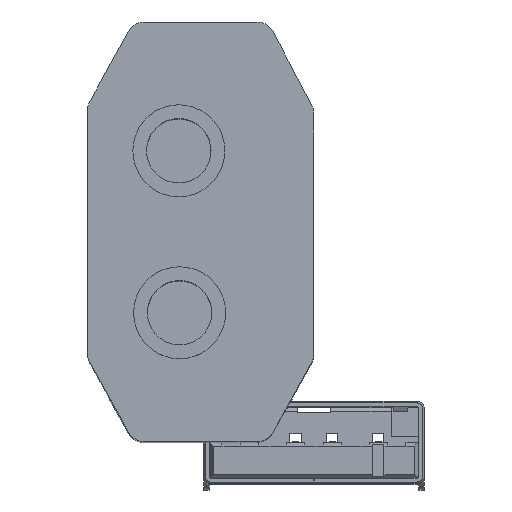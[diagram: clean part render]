
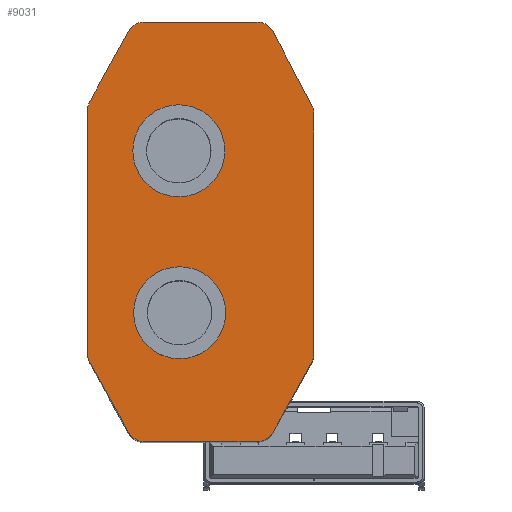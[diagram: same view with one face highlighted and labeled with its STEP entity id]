
A CAD part, top view. The second image highlights one B-rep face of the part: STEP entity #9031.
In plain terms, the highlighted planar face has unit normal (0, 0, 1).
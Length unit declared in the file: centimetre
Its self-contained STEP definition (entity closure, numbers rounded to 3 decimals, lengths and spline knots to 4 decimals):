
#1017=VERTEX_POINT('',#18897);
#1021=VERTEX_POINT('',#18908);
#1032=VERTEX_POINT('',#18943);
#1033=VERTEX_POINT('',#18944);
#1034=VERTEX_POINT('',#18946);
#1035=VERTEX_POINT('',#18948);
#1036=VERTEX_POINT('',#18950);
#1037=VERTEX_POINT('',#18952);
#1038=VERTEX_POINT('',#18954);
#1039=VERTEX_POINT('',#18956);
#1040=VERTEX_POINT('',#18958);
#1041=VERTEX_POINT('',#18960);
#1042=VERTEX_POINT('',#18962);
#1043=VERTEX_POINT('',#18964);
#1044=VERTEX_POINT('',#18966);
#1045=VERTEX_POINT('',#18968);
#1046=VERTEX_POINT('',#18970);
#1047=VERTEX_POINT('',#18972);
#2189=EDGE_CURVE('',#1017,#1017,#9902,.T.);
#2193=EDGE_CURVE('',#1021,#1021,#9906,.T.);
#2208=EDGE_CURVE('',#1032,#1033,#9909,.T.);
#2209=EDGE_CURVE('',#1034,#1032,#10640,.T.);
#2210=EDGE_CURVE('',#1035,#1034,#9910,.T.);
#2211=EDGE_CURVE('',#1036,#1035,#10641,.T.);
#2212=EDGE_CURVE('',#1037,#1036,#9911,.T.);
#2213=EDGE_CURVE('',#1038,#1037,#10642,.T.);
#2214=EDGE_CURVE('',#1039,#1038,#9912,.T.);
#2215=EDGE_CURVE('',#1040,#1039,#10643,.T.);
#2216=EDGE_CURVE('',#1041,#1040,#9913,.T.);
#2217=EDGE_CURVE('',#1042,#1041,#10644,.T.);
#2218=EDGE_CURVE('',#1043,#1042,#9914,.T.);
#2219=EDGE_CURVE('',#1044,#1043,#10645,.T.);
#2220=EDGE_CURVE('',#1045,#1044,#9915,.T.);
#2221=EDGE_CURVE('',#1046,#1045,#10646,.T.);
#2222=EDGE_CURVE('',#1047,#1046,#9916,.T.);
#2223=EDGE_CURVE('',#1033,#1047,#10647,.T.);
#4028=ORIENTED_EDGE('',*,*,#2208,.F.);
#4029=ORIENTED_EDGE('',*,*,#2209,.F.);
#4030=ORIENTED_EDGE('',*,*,#2210,.F.);
#4031=ORIENTED_EDGE('',*,*,#2211,.F.);
#4032=ORIENTED_EDGE('',*,*,#2212,.F.);
#4033=ORIENTED_EDGE('',*,*,#2213,.F.);
#4034=ORIENTED_EDGE('',*,*,#2214,.F.);
#4035=ORIENTED_EDGE('',*,*,#2215,.F.);
#4036=ORIENTED_EDGE('',*,*,#2216,.F.);
#4037=ORIENTED_EDGE('',*,*,#2217,.F.);
#4038=ORIENTED_EDGE('',*,*,#2218,.F.);
#4039=ORIENTED_EDGE('',*,*,#2219,.F.);
#4040=ORIENTED_EDGE('',*,*,#2220,.F.);
#4041=ORIENTED_EDGE('',*,*,#2221,.F.);
#4042=ORIENTED_EDGE('',*,*,#2222,.F.);
#4043=ORIENTED_EDGE('',*,*,#2223,.F.);
#4044=ORIENTED_EDGE('',*,*,#2189,.T.);
#4045=ORIENTED_EDGE('',*,*,#2193,.T.);
#7625=EDGE_LOOP('',(#4028,#4029,#4030,#4031,#4032,#4033,#4034,#4035,#4036,
#4037,#4038,#4039,#4040,#4041,#4042,#4043));
#7626=EDGE_LOOP('',(#4044));
#7627=EDGE_LOOP('',(#4045));
#8331=FACE_BOUND('',#7625,.T.);
#8332=FACE_BOUND('',#7626,.T.);
#8333=FACE_BOUND('',#7627,.T.);
#9031=ADVANCED_FACE('',(#8331,#8332,#8333),#15080,.T.);
#9902=CIRCLE('',#12557,0.25);
#9906=CIRCLE('',#12564,0.25);
#9909=CIRCLE('',#12576,0.1);
#9910=CIRCLE('',#12577,0.1);
#9911=CIRCLE('',#12578,0.1);
#9912=CIRCLE('',#12579,0.1);
#9913=CIRCLE('',#12580,0.1);
#9914=CIRCLE('',#12581,0.1);
#9915=CIRCLE('',#12582,0.1);
#9916=CIRCLE('',#12583,0.1);
#10640=LINE('',#18945,#13569);
#10641=LINE('',#18949,#13570);
#10642=LINE('',#18953,#13571);
#10643=LINE('',#18957,#13572);
#10644=LINE('',#18961,#13573);
#10645=LINE('',#18965,#13574);
#10646=LINE('',#18969,#13575);
#10647=LINE('',#18973,#13576);
#12557=AXIS2_PLACEMENT_3D('',#18896,#15799,#15800);
#12564=AXIS2_PLACEMENT_3D('',#18907,#15812,#15813);
#12575=AXIS2_PLACEMENT_3D('',#18941,#15839,$);
#12576=AXIS2_PLACEMENT_3D('',#18942,#15840,#15841);
#12577=AXIS2_PLACEMENT_3D('',#18947,#15843,#15844);
#12578=AXIS2_PLACEMENT_3D('',#18951,#15846,#15847);
#12579=AXIS2_PLACEMENT_3D('',#18955,#15849,#15850);
#12580=AXIS2_PLACEMENT_3D('',#18959,#15852,#15853);
#12581=AXIS2_PLACEMENT_3D('',#18963,#15855,#15856);
#12582=AXIS2_PLACEMENT_3D('',#18967,#15858,#15859);
#12583=AXIS2_PLACEMENT_3D('',#18971,#15861,#15862);
#13569=VECTOR('',#15842,1.);
#13570=VECTOR('',#15845,1.);
#13571=VECTOR('',#15848,1.);
#13572=VECTOR('',#15851,1.);
#13573=VECTOR('',#15854,1.);
#13574=VECTOR('',#15857,1.);
#13575=VECTOR('',#15860,1.);
#13576=VECTOR('',#15863,1.);
#15080=PLANE('',#12575);
#15799=DIRECTION('',(0.,0.,-1.));
#15800=DIRECTION('',(0.25,0.,0.));
#15812=DIRECTION('',(0.,0.,-1.));
#15813=DIRECTION('',(0.25,0.,0.));
#15839=DIRECTION('',(0.,0.,1.));
#15840=DIRECTION('',(0.,0.,-1.));
#15841=DIRECTION('',(0.1,0.,0.));
#15842=DIRECTION('',(0.484,0.875,0.));
#15843=DIRECTION('',(0.,0.,-1.));
#15844=DIRECTION('',(0.1,0.,0.));
#15845=DIRECTION('',(0.,1.,0.));
#15846=DIRECTION('',(0.,0.,-1.));
#15847=DIRECTION('',(0.1,0.,0.));
#15848=DIRECTION('',(-0.484,0.875,0.));
#15849=DIRECTION('',(0.,0.,-1.));
#15850=DIRECTION('',(0.1,0.,0.));
#15851=DIRECTION('',(-1.,0.,0.));
#15852=DIRECTION('',(0.,0.,-1.));
#15853=DIRECTION('',(0.1,0.,0.));
#15854=DIRECTION('',(-0.484,-0.875,0.));
#15855=DIRECTION('',(0.,0.,-1.));
#15856=DIRECTION('',(0.1,0.,0.));
#15857=DIRECTION('',(0.,-1.,0.));
#15858=DIRECTION('',(0.,0.,-1.));
#15859=DIRECTION('',(0.1,0.,0.));
#15860=DIRECTION('',(0.466,-0.885,0.));
#15861=DIRECTION('',(0.,0.,-1.));
#15862=DIRECTION('',(0.1,0.,0.));
#15863=DIRECTION('',(1.,0.,0.));
#18896=CARTESIAN_POINT('',(-0.7345,1.58,3.87));
#18897=CARTESIAN_POINT('',(-0.4845,1.58,3.87));
#18907=CARTESIAN_POINT('',(-0.73,0.7,3.87));
#18908=CARTESIAN_POINT('',(-0.48,0.7,3.87));
#18941=CARTESIAN_POINT('',(-0.6157,1.1394,3.87));
#18942=CARTESIAN_POINT('',(-0.921,2.18,3.87));
#18943=CARTESIAN_POINT('',(-1.0085,2.2284,3.87));
#18944=CARTESIAN_POINT('',(-0.921,2.28,3.87));
#18945=CARTESIAN_POINT('',(-1.2175,1.8501,3.87));
#18946=CARTESIAN_POINT('',(-1.2175,1.8501,3.87));
#18947=CARTESIAN_POINT('',(-1.13,1.8017,3.87));
#18948=CARTESIAN_POINT('',(-1.23,1.8017,3.87));
#18949=CARTESIAN_POINT('',(-1.23,0.4783,3.87));
#18950=CARTESIAN_POINT('',(-1.23,0.4783,3.87));
#18951=CARTESIAN_POINT('',(-1.13,0.4783,3.87));
#18952=CARTESIAN_POINT('',(-1.2175,0.4299,3.87));
#18953=CARTESIAN_POINT('',(-1.0085,0.0516,3.87));
#18954=CARTESIAN_POINT('',(-1.0085,0.0516,3.87));
#18955=CARTESIAN_POINT('',(-0.921,0.1,3.87));
#18956=CARTESIAN_POINT('',(-0.921,0.,3.87));
#18957=CARTESIAN_POINT('',(-0.309,0.,3.87));
#18958=CARTESIAN_POINT('',(-0.309,0.,3.87));
#18959=CARTESIAN_POINT('',(-0.309,0.1,3.87));
#18960=CARTESIAN_POINT('',(-0.2215,0.0516,3.87));
#18961=CARTESIAN_POINT('',(-0.0125,0.4299,3.87));
#18962=CARTESIAN_POINT('',(-0.0125,0.4299,3.87));
#18963=CARTESIAN_POINT('',(-0.1,0.4783,3.87));
#18964=CARTESIAN_POINT('',(0.,0.4783,3.87));
#18965=CARTESIAN_POINT('',(0.,1.7803,3.87));
#18966=CARTESIAN_POINT('',(0.,1.7803,3.87));
#18967=CARTESIAN_POINT('',(-0.1,1.7803,3.87));
#18968=CARTESIAN_POINT('',(-0.0115,1.8269,3.87));
#18969=CARTESIAN_POINT('',(-0.2219,2.2266,3.87));
#18970=CARTESIAN_POINT('',(-0.2219,2.2266,3.87));
#18971=CARTESIAN_POINT('',(-0.3104,2.18,3.87));
#18972=CARTESIAN_POINT('',(-0.3104,2.28,3.87));
#18973=CARTESIAN_POINT('',(-0.921,2.28,3.87));
